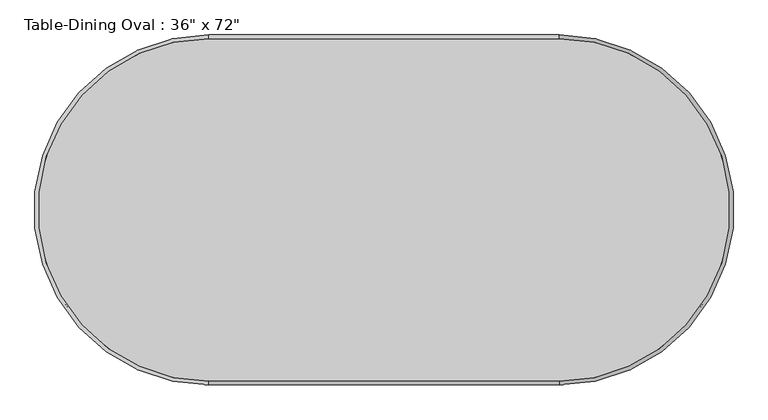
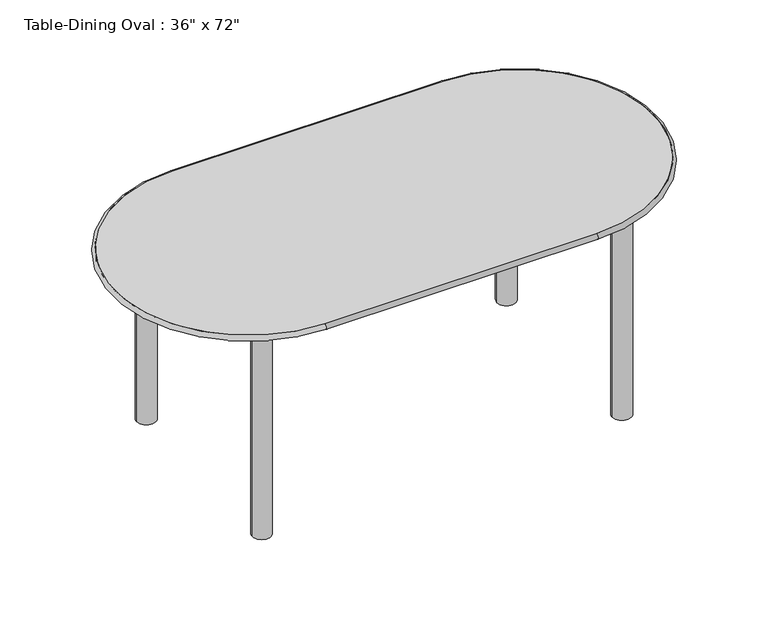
"""IFC4 building model written with IfcOpenShell, lengths in millimetres: furniture geometry."""

from ifc_helpers import new_model, si_unit, point, frame, frame_2d, origin, origin_with_axes, place, context, project, spatial, polyline, circle_curve, ellipse_curve, trimmed, segment, composite_curve, outline, extrude, source, transform, mapped, element, save
from ifc_brep_helpers import plane_surface, cylinder_surface, revolved_surface, advanced_brep


def furniture_2c34a4f9(model_context):
    return source(origin(), model_context, "Body", "SolidModel", [
        advanced_brep(
        [(-859.0196721, -805.7733607, 762.0), (-859.0196721, -805.7733607, 742.95), (55.3803279, -805.7733607, 742.95), (55.3803279, -805.7733607, 762.0), (55.3803279, 89.5766393, 762.0), (55.3803279, 89.5766393, 742.95), (-859.0196721, 89.5766393, 742.95), (-859.0196721, 89.5766393, 762.0)],
        [
            (0, 1, circle_curve(frame((-859.0196721, -805.7733607, 752.475), z_axis=(1.0, 0.0, 0.0), x_axis=(0.0, 1.0, 0.0)), 9.525)),
            (1, 2),
            (2, 3, circle_curve(frame((55.3803279, -805.7733607, 752.475), z_axis=(-1.0, 0.0, 0.0), x_axis=(0.0, 1.0, 0.0)), 9.525)),
            (3, 0),
            (1, 0),
            (3, 2),
            (4, 3, circle_curve(frame((55.3803279, -358.0983607, 762.0), z_axis=(0.0, 0.0, -1.0), x_axis=(0.0, -1.0, 0.0)), 447.675)),
            (2, 5, circle_curve(frame((55.3803279, -358.0983607, 742.95), z_axis=(0.0, 0.0, 1.0), x_axis=(0.0, -1.0, 0.0)), 447.675)),
            (5, 4, circle_curve(frame((55.3803279, 89.5766393, 752.475), z_axis=(1.0, 0.0, 0.0), x_axis=(0.0, -1.0, 0.0)), 9.525)),
            (4, 5),
            (5, 6),
            (6, 7, circle_curve(frame((-859.0196721, 89.5766393, 752.475), z_axis=(1.0, 0.0, 0.0), x_axis=(0.0, -1.0, 0.0)), 9.525)),
            (7, 4),
            (7, 6),
            (0, 7, circle_curve(frame((-859.0196721, -358.0983607, 762.0), z_axis=(0.0, 0.0, -1.0), x_axis=(0.0, 1.0, 0.0)), 447.675)),
            (6, 1, circle_curve(frame((-859.0196721, -358.0983607, 742.95), z_axis=(0.0, 0.0, 1.0), x_axis=(0.0, 1.0, 0.0)), 447.675)),
        ],
        [
            cylinder_surface(frame((-859.0196721, -805.7733607, 752.475), z_axis=(-1.0, 0.0, 0.0), x_axis=(0.0, 1.0, 0.0)), 9.525),
            plane_surface(frame((-859.0196721, -805.7733607, 762.0), z_axis=(0.0, 1.0, 0.0), x_axis=(1.0, 0.0, 0.0))),
            revolved_surface(trimmed(ellipse_curve(frame((55.3803279, -805.7733607, 752.475), z_axis=(-1.0, 0.0, 0.0), x_axis=(0.0, 1.0, 0.0)), 9.525, 9.525), [point((55.3803279, -805.7733607, 742.95))], [point((55.3803279, -805.7733607, 762.0))], True, "CARTESIAN"), (55.3803279, -358.0983607, 0.0), (0.0, 0.0, 1.0)),
            revolved_surface(polyline([(55.3803279, -805.7733607, 762.0), (55.3803279, -805.7733607, 742.95)]), (55.3803279, -358.0983607, 0.0), (0.0, 0.0, 1.0)),
            cylinder_surface(frame((55.3803279, 89.5766393, 752.475), z_axis=(1.0, 0.0, 0.0), x_axis=(0.0, -1.0, 0.0)), 9.525),
            plane_surface(frame((55.3803279, 89.5766393, 762.0), z_axis=(0.0, -1.0, 0.0), x_axis=(-1.0, 0.0, 0.0))),
            revolved_surface(trimmed(ellipse_curve(frame((-859.0196721, 89.5766393, 752.475), z_axis=(1.0, 0.0, 0.0), x_axis=(0.0, -1.0, 0.0)), 9.525, 9.525), [point((-859.0196721, 89.5766393, 742.95))], [point((-859.0196721, 89.5766393, 762.0))], True, "CARTESIAN"), (-859.0196721, -358.0983607, 0.0), (0.0, 0.0, 1.0)),
            revolved_surface(polyline([(-859.0196721, 89.57663930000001, 762.0), (-859.0196721, 89.57663930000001, 742.95)]), (-859.0196721, -358.0983607, 0.0), (0.0, 0.0, 1.0)),
        ],
        [
            (0, [[1, 2, 3, 4]]),
            (1, [[5, -4, 6, -2]]),
            (2, [[7, -3, 8, 9]]),
            (3, [[-8, -6, -7, 10]]),
            (4, [[-9, 11, 12, 13]]),
            (5, [[-10, -13, 14, -11]]),
            (6, [[15, -12, 16, -1]]),
            (7, [[-16, -14, -15, -5]]),
        ],
    ),
        extrude(outline(composite_curve([segment(trimmed(circle_curve(frame_2d((-1008.2446721, -21.5483607)), 31.75), [point((-1039.9946721, -21.5483607))], [point((-976.4946721, -21.5483607))], False, "CARTESIAN"), True, "CONTINUOUS"), segment(trimmed(circle_curve(frame_2d((-1008.2446721, -21.5483607)), 31.75), [point((-976.4946721, -21.5483607))], [point((-1039.9946721, -21.5483607))], False, "CARTESIAN"), True, "CONTINUOUS")], self_intersect=False)), origin_with_axes(), (0.0, 0.0, 1.0), 742.95),
        extrude(outline(composite_curve([segment(trimmed(circle_curve(frame_2d((-1008.2446721, -694.6483607)), 31.75), [point((-1039.9946721, -694.6483607))], [point((-976.4946721, -694.6483607))], False, "CARTESIAN"), True, "CONTINUOUS"), segment(trimmed(circle_curve(frame_2d((-1008.2446721, -694.6483607)), 31.75), [point((-976.4946721, -694.6483607))], [point((-1039.9946721, -694.6483607))], False, "CARTESIAN"), True, "CONTINUOUS")], self_intersect=False)), origin_with_axes(), (0.0, 0.0, 1.0), 742.95),
        extrude(outline(composite_curve([segment(trimmed(circle_curve(frame_2d((204.6053279, -21.5483607)), 31.75), [point((172.8553279, -21.5483607))], [point((236.3553279, -21.5483607))], False, "CARTESIAN"), True, "CONTINUOUS"), segment(trimmed(circle_curve(frame_2d((204.6053279, -21.5483607)), 31.75), [point((236.3553279, -21.5483607))], [point((172.8553279, -21.5483607))], False, "CARTESIAN"), True, "CONTINUOUS")], self_intersect=False)), origin_with_axes(), (0.0, 0.0, 1.0), 742.95),
        extrude(outline(composite_curve([segment(trimmed(circle_curve(frame_2d((204.6053279, -694.6483607)), 31.75), [point((172.8553279, -694.6483607))], [point((236.3553279, -694.6483607))], False, "CARTESIAN"), True, "CONTINUOUS"), segment(trimmed(circle_curve(frame_2d((204.6053279, -694.6483607)), 31.75), [point((236.3553279, -694.6483607))], [point((172.8553279, -694.6483607))], False, "CARTESIAN"), True, "CONTINUOUS")], self_intersect=False)), origin_with_axes(), (0.0, 0.0, 1.0), 742.95),
        extrude(outline(polyline([(223.6553279, -2.4983607), (223.6553279, -713.6983607), (-1027.2946721, -713.6983607), (-1027.2946721, -2.4983607), (223.6553279, -2.4983607)]), holes=[polyline([(204.6053279, -21.5483607), (-1008.2446721, -21.5483607), (-1008.2446721, -694.6483607), (204.6053279, -694.6483607), (204.6053279, -21.5483607)])]), frame((0.0, 0.0, 692.15), z_axis=(0.0, 0.0, 1.0), x_axis=(1.0, 0.0, 0.0)), (0.0, 0.0, 1.0), 50.8),
        extrude(outline(composite_curve([segment(polyline([(-859.0196721, 89.5766393), (55.3803279, 89.5766393)]), True, "CONTINUOUS"), segment(trimmed(circle_curve(frame_2d((55.3803279, -358.0983607)), 447.675), [point((55.3803279, 89.5766393))], [point((503.0553279, -358.0983607))], False, "CARTESIAN"), True, "CONTINUOUS"), segment(trimmed(circle_curve(frame_2d((55.3803279, -358.0983607)), 447.675), [point((503.0553279, -358.0983607))], [point((55.3803279, -805.7733607))], False, "CARTESIAN"), True, "CONTINUOUS"), segment(polyline([(55.3803279, -805.7733607), (-859.0196721, -805.7733607)]), True, "CONTINUOUS"), segment(trimmed(circle_curve(frame_2d((-859.0196721, -358.0983607)), 447.675), [point((-859.0196721, -805.7733607))], [point((-1306.6946721, -358.0983607))], False, "CARTESIAN"), True, "CONTINUOUS"), segment(trimmed(circle_curve(frame_2d((-859.0196721, -358.0983607)), 447.675), [point((-1306.6946721, -358.0983607))], [point((-859.0196721, 89.5766393))], False, "CARTESIAN"), True, "CONTINUOUS")], self_intersect=False)), frame((0.0, 0.0, 742.95), z_axis=(0.0, 0.0, 1.0), x_axis=(1.0, 0.0, 0.0)), (0.0, 0.0, 1.0), 19.05),
    ])


if __name__ == "__main__":
    model = new_model("IFC4")
    model_context = context("Model", 3, world=origin())
    ifc_project = project(units=[si_unit("LENGTHUNIT", "METRE", prefix="MILLI")], contexts=[model_context])
    site = spatial("IfcSite", under=ifc_project)
    building = spatial("IfcBuilding", under=site)
    placement = place(None, origin())
    furniture_shape = furniture_2c34a4f9(model_context)
    element("IfcFurniture", 1, ObjectType="Table-Dining Oval : 36\" x 72\"", at=placement, inside=building, context=model_context, shape_type="MappedRepresentation", body=[
        mapped(furniture_shape, transform((0.0, 0.0, 0.0), x_axis=(1.0, 0.0, 0.0), y_axis=(0.0, 1.0, 0.0), z_axis=(0.0, 0.0, 1.0))),
    ])
    save(model, "model.ifc")
